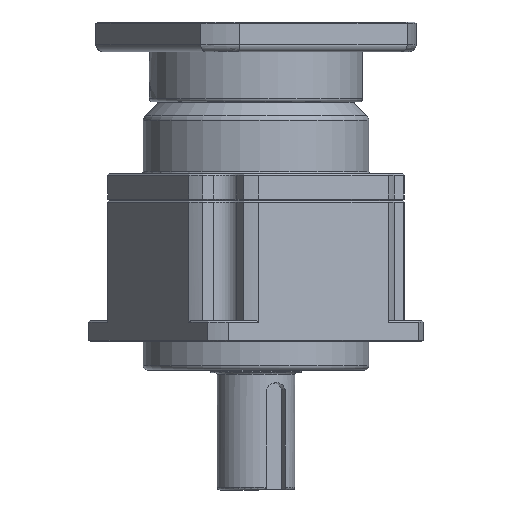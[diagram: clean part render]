
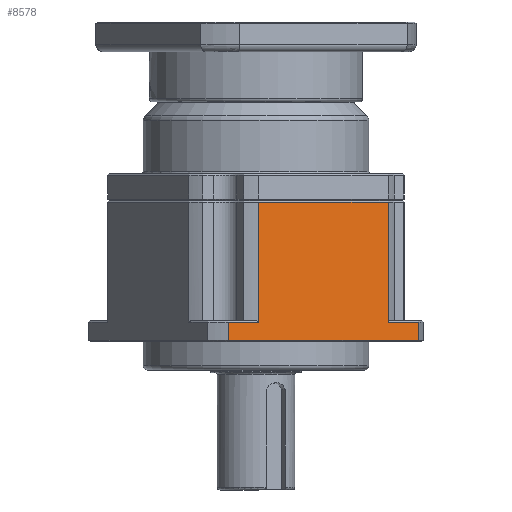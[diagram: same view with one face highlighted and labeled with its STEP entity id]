
A CAD part, front view. The second image highlights one B-rep face of the part: STEP entity #8578.
In plain terms, the highlighted planar face has unit normal (0.53, -0.848, 0) as drawn and (0, 1, 0) by its records, which use the part's own axes.
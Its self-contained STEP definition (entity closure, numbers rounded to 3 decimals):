
#7575=CARTESIAN_POINT('',(-54.083,90.,34.0));
#7576=VERTEX_POINT('',#7575);
#7584=CARTESIAN_POINT('',(-79.373,90.,34.0));
#7585=VERTEX_POINT('',#7584);
#7586=CARTESIAN_POINT('',(-54.083,90.,34.0));
#7587=DIRECTION('',(-1.0,0.0,0.0));
#7588=VECTOR('',#7587,25.289);
#7589=LINE('',#7586,#7588);
#7590=EDGE_CURVE('',#7576,#7585,#7589,.T.);
#7965=CARTESIAN_POINT('',(54.083,90.0,119.0));
#7966=VERTEX_POINT('',#7965);
#7974=CARTESIAN_POINT('',(-54.083,90.0,119.0));
#7975=VERTEX_POINT('',#7974);
#7976=CARTESIAN_POINT('',(54.083,90.0,119.0));
#7977=DIRECTION('',(-1.0,0.0,0.0));
#7978=VECTOR('',#7977,108.167);
#7979=LINE('',#7976,#7978);
#7980=EDGE_CURVE('',#7966,#7975,#7979,.T.);
#8518=CARTESIAN_POINT('',(-54.083,90.0,34.0));
#8519=DIRECTION('',(0.0,0.0,1.0));
#8520=VECTOR('',#8519,85.0);
#8521=LINE('',#8518,#8520);
#8522=EDGE_CURVE('',#7576,#7975,#8521,.T.);
#8530=CARTESIAN_POINT('',(-79.373,90.,20.0));
#8531=DIRECTION('',(0.0,1.0,0.0));
#8532=DIRECTION('',(0.0,0.0,1.0));
#8533=AXIS2_PLACEMENT_3D('',#8530,#8531,#8532);
#8534=PLANE('',#8533);
#8535=ORIENTED_EDGE('',*,*,#8522,.T.);
#8536=ORIENTED_EDGE('',*,*,#7980,.F.);
#8537=CARTESIAN_POINT('',(54.083,90.,34.0));
#8538=VERTEX_POINT('',#8537);
#8539=CARTESIAN_POINT('',(54.083,90.0,119.0));
#8540=DIRECTION('',(0.0,0.0,-1.0));
#8541=VECTOR('',#8540,85.0);
#8542=LINE('',#8539,#8541);
#8543=EDGE_CURVE('',#7966,#8538,#8542,.T.);
#8544=ORIENTED_EDGE('',*,*,#8543,.T.);
#8545=CARTESIAN_POINT('',(79.373,90.0,34.0));
#8546=VERTEX_POINT('',#8545);
#8547=CARTESIAN_POINT('',(79.373,90.0,34.0));
#8548=DIRECTION('',(-1.0,0.0,0.0));
#8549=VECTOR('',#8548,25.289);
#8550=LINE('',#8547,#8549);
#8551=EDGE_CURVE('',#8546,#8538,#8550,.T.);
#8552=ORIENTED_EDGE('',*,*,#8551,.F.);
#8553=CARTESIAN_POINT('',(79.373,90.0,21.0));
#8554=VERTEX_POINT('',#8553);
#8555=CARTESIAN_POINT('',(79.373,90.0,21.));
#8556=DIRECTION('',(0.0,0.0,1.0));
#8557=VECTOR('',#8556,13.);
#8558=LINE('',#8555,#8557);
#8559=EDGE_CURVE('',#8554,#8546,#8558,.T.);
#8560=ORIENTED_EDGE('',*,*,#8559,.F.);
#8561=CARTESIAN_POINT('',(-79.373,90.,21.));
#8562=VERTEX_POINT('',#8561);
#8563=CARTESIAN_POINT('',(-79.373,90.,21.));
#8564=DIRECTION('',(1.0,0.0,0.0));
#8565=VECTOR('',#8564,158.745);
#8566=LINE('',#8563,#8565);
#8567=EDGE_CURVE('',#8562,#8554,#8566,.T.);
#8568=ORIENTED_EDGE('',*,*,#8567,.F.);
#8569=CARTESIAN_POINT('',(-79.373,90.,21.0));
#8570=DIRECTION('',(0.0,0.0,1.0));
#8571=VECTOR('',#8570,13.0);
#8572=LINE('',#8569,#8571);
#8573=EDGE_CURVE('',#8562,#7585,#8572,.T.);
#8574=ORIENTED_EDGE('',*,*,#8573,.T.);
#8575=ORIENTED_EDGE('',*,*,#7590,.F.);
#8576=EDGE_LOOP('',(#8535,#8536,#8544,#8552,#8560,#8568,#8574,#8575));
#8577=FACE_OUTER_BOUND('',#8576,.T.);
#8578=ADVANCED_FACE('',(#8577),#8534,.T.);
